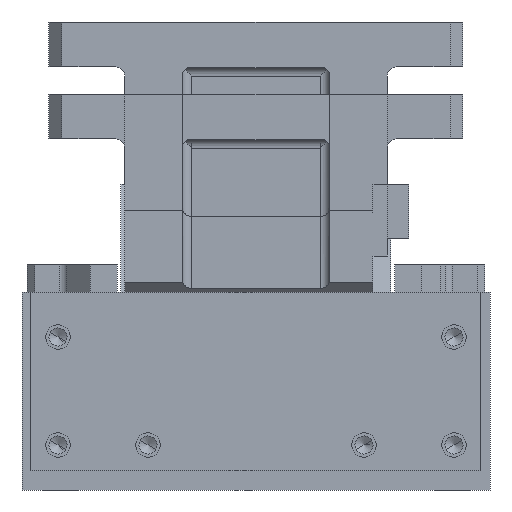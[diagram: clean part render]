
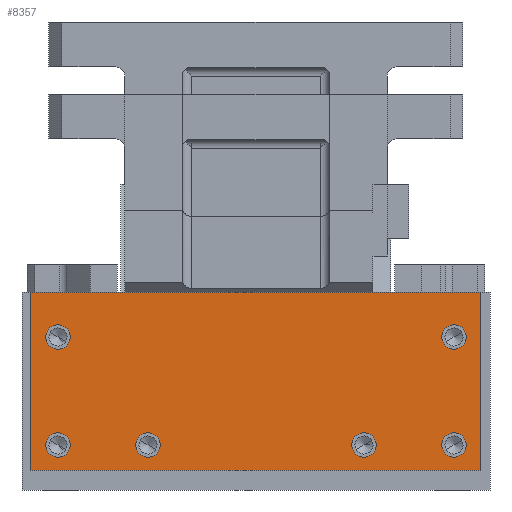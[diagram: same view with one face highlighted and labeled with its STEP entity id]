
A CAD part, left-side view. The second image highlights one B-rep face of the part: STEP entity #8357.
In plain terms, the highlighted planar face has unit normal (-1, 0, 0).
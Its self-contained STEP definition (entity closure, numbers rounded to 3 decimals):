
#6435=CARTESIAN_POINT('Vertex',(-12.,125.,110.)) ;
#6438=CARTESIAN_POINT('Line Origine',(-12.,0.,110.)) ;
#6442=CARTESIAN_POINT('Vertex',(-12.,-125.,110.)) ;
#8206=CARTESIAN_POINT('Vertex',(-12.,65.924,28.236)) ;
#8213=CARTESIAN_POINT('Vertex',(-12.,54.076,21.764)) ;
#8216=CARTESIAN_POINT('Axis2P3D Location',(-12.,60.,25.)) ;
#8228=CARTESIAN_POINT('Axis2P3D Location',(-12.,0.,0.)) ;
#8233=CARTESIAN_POINT('Line Origine',(-12.,125.,60.5)) ;
#8237=CARTESIAN_POINT('Vertex',(-12.,125.,11.)) ;
#8240=CARTESIAN_POINT('Line Origine',(-12.,0.,11.)) ;
#8244=CARTESIAN_POINT('Vertex',(-12.,-125.,11.)) ;
#8247=CARTESIAN_POINT('Line Origine',(-12.,-125.,60.5)) ;
#8258=CARTESIAN_POINT('Axis2P3D Location',(-12.,-110.,25.)) ;
#8262=CARTESIAN_POINT('Vertex',(-12.,-115.924,28.236)) ;
#8264=CARTESIAN_POINT('Vertex',(-12.,-104.076,21.764)) ;
#8267=CARTESIAN_POINT('Axis2P3D Location',(-12.,-110.,25.)) ;
#8276=CARTESIAN_POINT('Axis2P3D Location',(-12.,-110.,85.)) ;
#8280=CARTESIAN_POINT('Vertex',(-12.,-115.924,88.236)) ;
#8282=CARTESIAN_POINT('Vertex',(-12.,-104.076,81.764)) ;
#8285=CARTESIAN_POINT('Axis2P3D Location',(-12.,-110.,85.)) ;
#8294=CARTESIAN_POINT('Axis2P3D Location',(-12.,-60.,25.)) ;
#8298=CARTESIAN_POINT('Vertex',(-12.,-65.924,28.236)) ;
#8300=CARTESIAN_POINT('Vertex',(-12.,-54.076,21.764)) ;
#8303=CARTESIAN_POINT('Axis2P3D Location',(-12.,-60.,25.)) ;
#8312=CARTESIAN_POINT('Axis2P3D Location',(-12.,110.,25.)) ;
#8316=CARTESIAN_POINT('Vertex',(-12.,115.924,28.236)) ;
#8318=CARTESIAN_POINT('Vertex',(-12.,104.076,21.764)) ;
#8321=CARTESIAN_POINT('Axis2P3D Location',(-12.,110.,25.)) ;
#8330=CARTESIAN_POINT('Axis2P3D Location',(-12.,110.,85.)) ;
#8334=CARTESIAN_POINT('Vertex',(-12.,104.076,81.764)) ;
#8336=CARTESIAN_POINT('Vertex',(-12.,115.924,88.236)) ;
#8339=CARTESIAN_POINT('Axis2P3D Location',(-12.,110.,85.)) ;
#8348=CARTESIAN_POINT('Axis2P3D Location',(-12.,60.,25.)) ;
#6440=VECTOR('Line Direction',#6439,1.) ;
#8235=VECTOR('Line Direction',#8234,1.) ;
#8242=VECTOR('Line Direction',#8241,1.) ;
#8249=VECTOR('Line Direction',#8248,1.) ;
#6439=DIRECTION('Vector Direction',(0.,-1.,0.)) ;
#8217=DIRECTION('Axis2P3D Direction',(1.,0.,0.)) ;
#8229=DIRECTION('Axis2P3D Direction',(-1.,-0.,0.)) ;
#8230=DIRECTION('Axis2P3D XDirection',(0.,-1.,0.)) ;
#8234=DIRECTION('Vector Direction',(0.,0.,-1.)) ;
#8241=DIRECTION('Vector Direction',(0.,1.,0.)) ;
#8248=DIRECTION('Vector Direction',(0.,0.,-1.)) ;
#8259=DIRECTION('Axis2P3D Direction',(-1.,-0.,0.)) ;
#8268=DIRECTION('Axis2P3D Direction',(-1.,-0.,0.)) ;
#8277=DIRECTION('Axis2P3D Direction',(-1.,-0.,0.)) ;
#8286=DIRECTION('Axis2P3D Direction',(-1.,-0.,0.)) ;
#8295=DIRECTION('Axis2P3D Direction',(-1.,-0.,0.)) ;
#8304=DIRECTION('Axis2P3D Direction',(-1.,-0.,0.)) ;
#8313=DIRECTION('Axis2P3D Direction',(-1.,-0.,0.)) ;
#8322=DIRECTION('Axis2P3D Direction',(-1.,-0.,0.)) ;
#8331=DIRECTION('Axis2P3D Direction',(-1.,-0.,0.)) ;
#8340=DIRECTION('Axis2P3D Direction',(-1.,-0.,0.)) ;
#8349=DIRECTION('Axis2P3D Direction',(-1.,-0.,0.)) ;
#8218=AXIS2_PLACEMENT_3D('Circle Axis2P3D',#8216,#8217,$) ;
#8231=AXIS2_PLACEMENT_3D('Plane Axis2P3D',#8228,#8229,#8230) ;
#8260=AXIS2_PLACEMENT_3D('Circle Axis2P3D',#8258,#8259,$) ;
#8269=AXIS2_PLACEMENT_3D('Circle Axis2P3D',#8267,#8268,$) ;
#8278=AXIS2_PLACEMENT_3D('Circle Axis2P3D',#8276,#8277,$) ;
#8287=AXIS2_PLACEMENT_3D('Circle Axis2P3D',#8285,#8286,$) ;
#8296=AXIS2_PLACEMENT_3D('Circle Axis2P3D',#8294,#8295,$) ;
#8305=AXIS2_PLACEMENT_3D('Circle Axis2P3D',#8303,#8304,$) ;
#8314=AXIS2_PLACEMENT_3D('Circle Axis2P3D',#8312,#8313,$) ;
#8323=AXIS2_PLACEMENT_3D('Circle Axis2P3D',#8321,#8322,$) ;
#8332=AXIS2_PLACEMENT_3D('Circle Axis2P3D',#8330,#8331,$) ;
#8341=AXIS2_PLACEMENT_3D('Circle Axis2P3D',#8339,#8340,$) ;
#8350=AXIS2_PLACEMENT_3D('Circle Axis2P3D',#8348,#8349,$) ;
#6441=LINE('Line',#6438,#6440) ;
#8236=LINE('Line',#8233,#8235) ;
#8243=LINE('Line',#8240,#8242) ;
#8250=LINE('Line',#8247,#8249) ;
#8219=CIRCLE('generated circle',#8218,6.75) ;
#8261=CIRCLE('generated circle',#8260,6.75) ;
#8270=CIRCLE('generated circle',#8269,6.75) ;
#8279=CIRCLE('generated circle',#8278,6.75) ;
#8288=CIRCLE('generated circle',#8287,6.75) ;
#8297=CIRCLE('generated circle',#8296,6.75) ;
#8306=CIRCLE('generated circle',#8305,6.75) ;
#8315=CIRCLE('generated circle',#8314,6.75) ;
#8324=CIRCLE('generated circle',#8323,6.75) ;
#8333=CIRCLE('generated circle',#8332,6.75) ;
#8342=CIRCLE('generated circle',#8341,6.75) ;
#8351=CIRCLE('generated circle',#8350,6.75) ;
#8232=PLANE('',#8231) ;
#8275=FACE_BOUND('',#8272,.T.) ;
#8293=FACE_BOUND('',#8290,.T.) ;
#8311=FACE_BOUND('',#8308,.T.) ;
#8329=FACE_BOUND('',#8326,.T.) ;
#8347=FACE_BOUND('',#8344,.T.) ;
#8356=FACE_BOUND('',#8353,.T.) ;
#6444=EDGE_CURVE('',#6436,#6443,#6441,.T.) ;
#8220=EDGE_CURVE('',#8214,#8207,#8219,.F.) ;
#8239=EDGE_CURVE('',#6436,#8238,#8236,.T.) ;
#8246=EDGE_CURVE('',#8245,#8238,#8243,.T.) ;
#8251=EDGE_CURVE('',#6443,#8245,#8250,.T.) ;
#8266=EDGE_CURVE('',#8263,#8265,#8261,.F.) ;
#8271=EDGE_CURVE('',#8265,#8263,#8270,.F.) ;
#8284=EDGE_CURVE('',#8281,#8283,#8279,.F.) ;
#8289=EDGE_CURVE('',#8283,#8281,#8288,.F.) ;
#8302=EDGE_CURVE('',#8299,#8301,#8297,.F.) ;
#8307=EDGE_CURVE('',#8301,#8299,#8306,.F.) ;
#8320=EDGE_CURVE('',#8317,#8319,#8315,.T.) ;
#8325=EDGE_CURVE('',#8319,#8317,#8324,.T.) ;
#8338=EDGE_CURVE('',#8335,#8337,#8333,.T.) ;
#8343=EDGE_CURVE('',#8337,#8335,#8342,.T.) ;
#8352=EDGE_CURVE('',#8207,#8214,#8351,.T.) ;
#8252=EDGE_LOOP('',(#8253,#8254,#8255,#8256)) ;
#8272=EDGE_LOOP('',(#8273,#8274)) ;
#8290=EDGE_LOOP('',(#8291,#8292)) ;
#8308=EDGE_LOOP('',(#8309,#8310)) ;
#8326=EDGE_LOOP('',(#8327,#8328)) ;
#8344=EDGE_LOOP('',(#8345,#8346)) ;
#8353=EDGE_LOOP('',(#8354,#8355)) ;
#8253=ORIENTED_EDGE('',*,*,#8239,.T.) ;
#8254=ORIENTED_EDGE('',*,*,#8246,.F.) ;
#8255=ORIENTED_EDGE('',*,*,#8251,.F.) ;
#8256=ORIENTED_EDGE('',*,*,#6444,.F.) ;
#8273=ORIENTED_EDGE('',*,*,#8266,.T.) ;
#8274=ORIENTED_EDGE('',*,*,#8271,.T.) ;
#8291=ORIENTED_EDGE('',*,*,#8284,.T.) ;
#8292=ORIENTED_EDGE('',*,*,#8289,.T.) ;
#8309=ORIENTED_EDGE('',*,*,#8302,.T.) ;
#8310=ORIENTED_EDGE('',*,*,#8307,.T.) ;
#8327=ORIENTED_EDGE('',*,*,#8320,.F.) ;
#8328=ORIENTED_EDGE('',*,*,#8325,.F.) ;
#8345=ORIENTED_EDGE('',*,*,#8338,.F.) ;
#8346=ORIENTED_EDGE('',*,*,#8343,.F.) ;
#8354=ORIENTED_EDGE('',*,*,#8352,.F.) ;
#8355=ORIENTED_EDGE('',*,*,#8220,.F.) ;
#6436=VERTEX_POINT('',#6435) ;
#6443=VERTEX_POINT('',#6442) ;
#8207=VERTEX_POINT('',#8206) ;
#8214=VERTEX_POINT('',#8213) ;
#8238=VERTEX_POINT('',#8237) ;
#8245=VERTEX_POINT('',#8244) ;
#8263=VERTEX_POINT('',#8262) ;
#8265=VERTEX_POINT('',#8264) ;
#8281=VERTEX_POINT('',#8280) ;
#8283=VERTEX_POINT('',#8282) ;
#8299=VERTEX_POINT('',#8298) ;
#8301=VERTEX_POINT('',#8300) ;
#8317=VERTEX_POINT('',#8316) ;
#8319=VERTEX_POINT('',#8318) ;
#8335=VERTEX_POINT('',#8334) ;
#8337=VERTEX_POINT('',#8336) ;
#8357=ADVANCED_FACE('base',(#8257,#8275,#8293,#8311,#8329,#8347,#8356),#8232,.T.) ;
#8257=FACE_OUTER_BOUND('',#8252,.T.) ;
